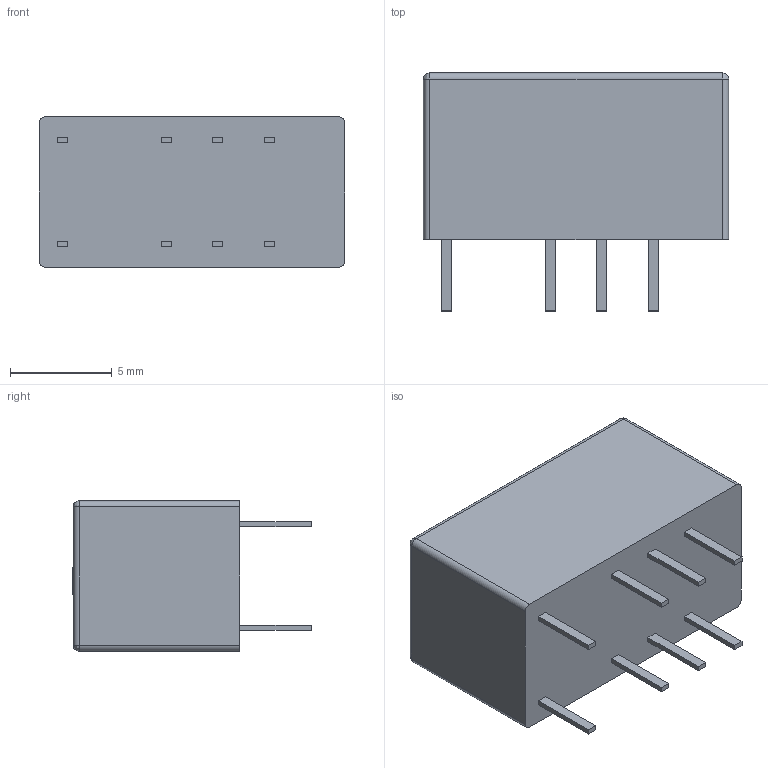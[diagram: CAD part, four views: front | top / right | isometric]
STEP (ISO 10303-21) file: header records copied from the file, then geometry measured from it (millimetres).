
FILE_DESCRIPTION (( 'STEP AP214' ), '1' );
FILE_NAME ('User Library-TX2-5V.STEP', '2019-09-14T08:14:50', ( '' ), ( '' ), 'SwSTEP 2.0', 'SolidWorks 2019', '' );
FILE_SCHEMA (( 'AUTOMOTIVE_DESIGN' ));
Length unit declared in the file: millimetre
Products named in the file (1): User Library-TX2-5V
Bounding box: 15 x 11.71 x 7.4 mm (x, y, z)
Volume: 912.2 mm3; surface area: 627.9 mm2
Topology: 15 solids, 15 shells, 148 faces, 346 edges, 224 vertices
Faces by surface type: plane 115, bspline 25, cylinder 8
Entity records: 7570 total; most frequent: CARTESIAN_POINT 2554, ORIENTED_EDGE 684, DIRECTION 564, EDGE_CURVE 342, VECTOR 284, LINE 284, VERTEX_POINT 224, UNCERTAINTY_MEASURE_WITH_UNIT 165
